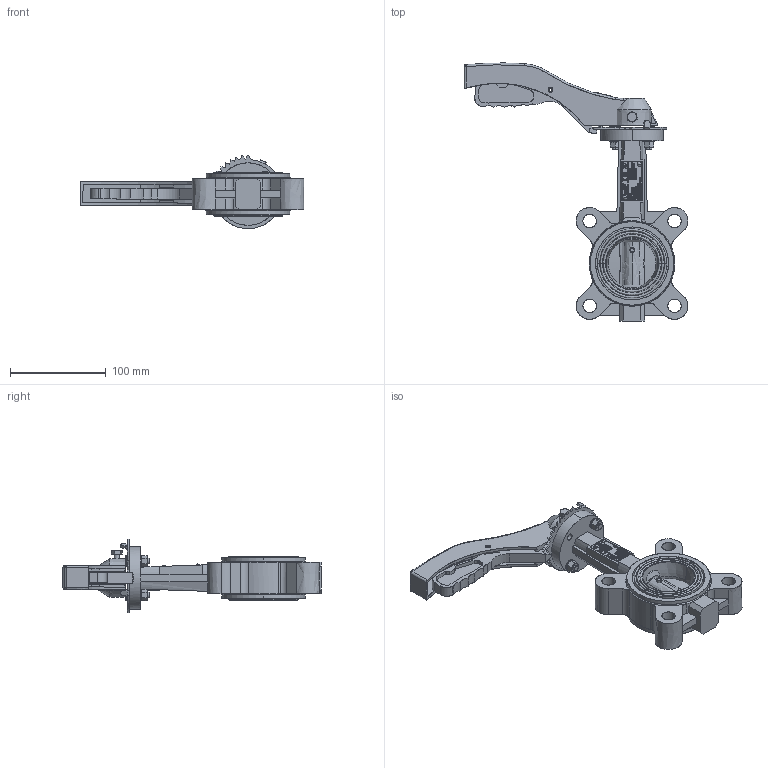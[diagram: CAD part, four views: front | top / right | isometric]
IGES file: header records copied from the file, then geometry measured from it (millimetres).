
Start section: SolidWorks IGES file using analytic representation for surfaces
Global section: file name: H:\BE BIBLIOTHEQUE 3D\BE SECTION 01 - ROBINETS A PAPILLON_VANNES PASSAGE DIRECTE\VP - Vanne Papillon\VPG\LUG\DN50\VPG464X-02XX0050VPG464X-02XX0050--.igs; native system: SolidWorks 2020; preprocessor: SolidWorks 2020; author: k.gigout; date: 220519.121112; units: millimetre
Bounding box: 233.22 x 268.93 x 76.32 mm (x, y, z)
Surface area: 127916.6 mm2 (no closed solid volume)
Topology: 0 solids, 0 shells, 761 faces, 17958 edges, 17954 vertices
Faces by surface type: bspline 555, revolution 206
